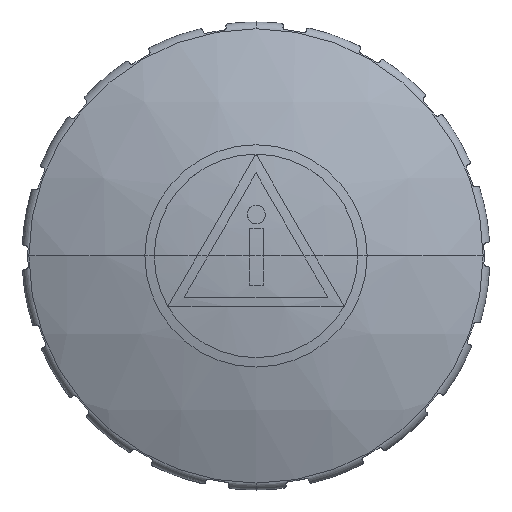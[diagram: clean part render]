
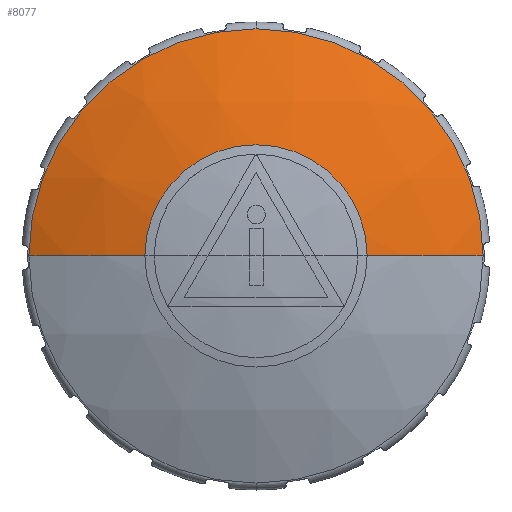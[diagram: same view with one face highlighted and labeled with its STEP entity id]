
A CAD part, top view. The second image highlights one B-rep face of the part: STEP entity #8077.
In plain terms, the highlighted spherical face has radius 46.694 mm.
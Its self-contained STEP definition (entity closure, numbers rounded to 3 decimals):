
#238 = VERTEX_POINT ( 'NONE', #3322 ) ;
#350 = CARTESIAN_POINT ( 'NONE',  ( 0., 0., 28.472 ) ) ;
#495 = DIRECTION ( 'NONE',  ( 0., 0., 1. ) ) ;
#496 = DIRECTION ( 'NONE',  ( 0., 1., 0. ) ) ;
#704 = DIRECTION ( 'NONE',  ( 0., -1., 0. ) ) ;
#804 = DIRECTION ( 'NONE',  ( 0., -1., 0. ) ) ;
#806 = CARTESIAN_POINT ( 'NONE',  ( 0., 0., -13.994 ) ) ;
#1212 = DIRECTION ( 'NONE',  ( 1., 0., 0. ) ) ;
#1356 = CARTESIAN_POINT ( 'NONE',  ( 0., 0., -13.994 ) ) ;
#1728 = ORIENTED_EDGE ( 'NONE', *, *, #7663, .F. ) ;
#1733 = EDGE_LOOP ( 'NONE', ( #1728, #2080, #6027, #6049, #2283, #2144 ) ) ;
#2080 = ORIENTED_EDGE ( 'NONE', *, *, #7741, .T. ) ;
#2144 = ORIENTED_EDGE ( 'NONE', *, *, #6548, .T. ) ;
#2283 = ORIENTED_EDGE ( 'NONE', *, *, #7399, .T. ) ;
#2432 = CIRCLE ( 'NONE', #6870, 9.5 ) ;
#2475 = CIRCLE ( 'NONE', #6801, 46.694 ) ;
#2683 = CARTESIAN_POINT ( 'NONE',  ( 0., 0., 31.723 ) ) ;
#2947 = CARTESIAN_POINT ( 'NONE',  ( 0., 0., -13.994 ) ) ;
#3148 = DIRECTION ( 'NONE',  ( 0., 0., -1. ) ) ;
#3256 = CARTESIAN_POINT ( 'NONE',  ( 0., 19.416, 28.472 ) ) ;
#3271 = VERTEX_POINT ( 'NONE', #3256 ) ;
#3322 = CARTESIAN_POINT ( 'NONE',  ( 19.416, 0., 28.472 ) ) ;
#3389 = VERTEX_POINT ( 'NONE', #3411 ) ;
#3393 = VERTEX_POINT ( 'NONE', #3879 ) ;
#3409 = CARTESIAN_POINT ( 'NONE',  ( 9.5, 0., 31.723 ) ) ;
#3411 = CARTESIAN_POINT ( 'NONE',  ( 0., 9.5, 31.723 ) ) ;
#3521 = DIRECTION ( 'NONE',  ( -1., 0., 0. ) ) ;
#3530 = CARTESIAN_POINT ( 'NONE',  ( -19.416, 0., 28.472 ) ) ;
#3567 = DIRECTION ( 'NONE',  ( 0., 1., 0. ) ) ;
#3733 = VERTEX_POINT ( 'NONE', #3409 ) ;
#3879 = CARTESIAN_POINT ( 'NONE',  ( -9.5, 0., 31.723 ) ) ;
#3907 = DIRECTION ( 'NONE',  ( 0., 1., 0. ) ) ;
#3910 = VERTEX_POINT ( 'NONE', #3530 ) ;
#4817 = DIRECTION ( 'NONE',  ( -1., 0., 0. ) ) ;
#5017 = FACE_OUTER_BOUND ( 'NONE', #1733, .T. ) ;
#5020 = SPHERICAL_SURFACE ( 'NONE', #6629, 46.694 ) ;
#5511 = CIRCLE ( 'NONE', #6447, 46.694 ) ;
#5580 = CIRCLE ( 'NONE', #6495, 19.416 ) ;
#6027 = ORIENTED_EDGE ( 'NONE', *, *, #7455, .T. ) ;
#6049 = ORIENTED_EDGE ( 'NONE', *, *, #6832, .T. ) ;
#6447 = AXIS2_PLACEMENT_3D ( 'NONE', #1356, #704, #1212 ) ;
#6495 = AXIS2_PLACEMENT_3D ( 'NONE', #350, #495, #496 ) ;
#6548 = EDGE_CURVE ( 'NONE', #3389, #3733, #2432, .T. ) ;
#6629 = AXIS2_PLACEMENT_3D ( 'NONE', #806, #804, #4817 ) ;
#6712 = AXIS2_PLACEMENT_3D ( 'NONE', #9494, #9045, #8970 ) ;
#6724 = AXIS2_PLACEMENT_3D ( 'NONE', #8723, #8585, #8479 ) ;
#6801 = AXIS2_PLACEMENT_3D ( 'NONE', #2947, #3907, #3521 ) ;
#6832 = EDGE_CURVE ( 'NONE', #3910, #3393, #2475, .T. ) ;
#6870 = AXIS2_PLACEMENT_3D ( 'NONE', #2683, #3148, #3567 ) ;
#7399 = EDGE_CURVE ( 'NONE', #3393, #3389, #9791, .T. ) ;
#7455 = EDGE_CURVE ( 'NONE', #3271, #3910, #9850, .T. ) ;
#7663 = EDGE_CURVE ( 'NONE', #238, #3733, #5511, .T. ) ;
#7741 = EDGE_CURVE ( 'NONE', #238, #3271, #5580, .T. ) ;
#8077 = ADVANCED_FACE ( 'NONE', ( #5017 ), #5020, .T. ) ;
#8479 = DIRECTION ( 'NONE',  ( 0., 1., 0. ) ) ;
#8585 = DIRECTION ( 'NONE',  ( 0., 0., 1. ) ) ;
#8723 = CARTESIAN_POINT ( 'NONE',  ( 0., 0., 28.472 ) ) ;
#8970 = DIRECTION ( 'NONE',  ( 0., 1., 0. ) ) ;
#9045 = DIRECTION ( 'NONE',  ( 0., 0., -1. ) ) ;
#9494 = CARTESIAN_POINT ( 'NONE',  ( 0., 0., 31.723 ) ) ;
#9791 = CIRCLE ( 'NONE', #6712, 9.5 ) ;
#9850 = CIRCLE ( 'NONE', #6724, 19.416 ) ;
